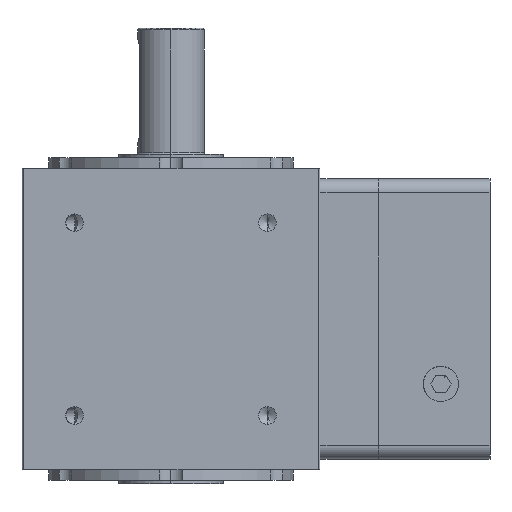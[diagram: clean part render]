
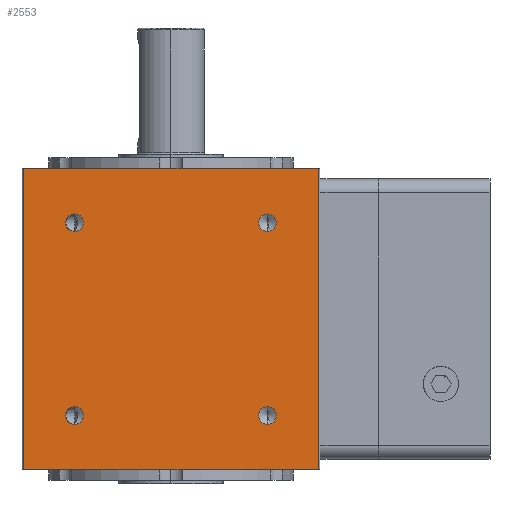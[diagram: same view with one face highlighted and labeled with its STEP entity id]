
A CAD part, left-side view. The second image highlights one B-rep face of the part: STEP entity #2553.
In plain terms, the highlighted planar face has unit normal (-1, 0, 0).
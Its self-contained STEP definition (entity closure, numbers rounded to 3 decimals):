
#61 = ORIENTED_EDGE ( 'NONE', *, *, #11207, .F. ) ;
#129 = CIRCLE ( 'NONE', #11968, 2.5 ) ;
#152 = CARTESIAN_POINT ( 'NONE',  ( -42.5, 27.5, -27.5 ) ) ;
#187 = EDGE_CURVE ( 'NONE', #3725, #6624, #4575, .T. ) ;
#194 = FACE_BOUND ( 'NONE', #8117, .T. ) ;
#220 = AXIS2_PLACEMENT_3D ( 'NONE', #8906, #1755, #7794 ) ;
#443 = CARTESIAN_POINT ( 'NONE',  ( -42.5, 27.5, 27.5 ) ) ;
#494 = EDGE_CURVE ( 'NONE', #6188, #11779, #9210, .T. ) ;
#883 = ORIENTED_EDGE ( 'NONE', *, *, #10194, .F. ) ;
#1024 = AXIS2_PLACEMENT_3D ( 'NONE', #8466, #8553, #1221 ) ;
#1221 = DIRECTION ( 'NONE',  ( 0., 0., 1. ) ) ;
#1329 = AXIS2_PLACEMENT_3D ( 'NONE', #12964, #6889, #1886 ) ;
#1378 = ORIENTED_EDGE ( 'NONE', *, *, #11159, .F. ) ;
#1755 = DIRECTION ( 'NONE',  ( -1., 0., 0. ) ) ;
#1786 = CARTESIAN_POINT ( 'NONE',  ( -42.5, 27.5, -27.5 ) ) ;
#1828 = VERTEX_POINT ( 'NONE', #5660 ) ;
#1886 = DIRECTION ( 'NONE',  ( 0., 0., 1. ) ) ;
#2252 = FACE_BOUND ( 'NONE', #12436, .T. ) ;
#2255 = EDGE_LOOP ( 'NONE', ( #13180, #3172, #5145, #11695 ) ) ;
#2298 = EDGE_CURVE ( 'NONE', #9243, #11201, #12623, .T. ) ;
#2553 = ADVANCED_FACE ( 'NONE', ( #2252, #8978, #6079, #194, #7700 ), #4253, .T. ) ;
#2557 = CARTESIAN_POINT ( 'NONE',  ( -42.5, -42., -43. ) ) ;
#2654 = LINE ( 'NONE', #10332, #13132 ) ;
#2748 = CARTESIAN_POINT ( 'NONE',  ( -42.5, 27.5, -25. ) ) ;
#2783 = CARTESIAN_POINT ( 'NONE',  ( -42.5, -27.5, 30. ) ) ;
#2856 = EDGE_CURVE ( 'NONE', #9452, #9391, #6583, .T. ) ;
#3163 = CARTESIAN_POINT ( 'NONE',  ( -42.5, 27.5, 27.5 ) ) ;
#3172 = ORIENTED_EDGE ( 'NONE', *, *, #11679, .T. ) ;
#3236 = ORIENTED_EDGE ( 'NONE', *, *, #494, .F. ) ;
#3266 = EDGE_LOOP ( 'NONE', ( #10992, #5238 ) ) ;
#3337 = CARTESIAN_POINT ( 'NONE',  ( -42.5, 42., -43. ) ) ;
#3531 = ORIENTED_EDGE ( 'NONE', *, *, #2298, .F. ) ;
#3558 = VERTEX_POINT ( 'NONE', #11164 ) ;
#3571 = ORIENTED_EDGE ( 'NONE', *, *, #187, .F. ) ;
#3626 = VECTOR ( 'NONE', #9513, 1000. ) ;
#3725 = VERTEX_POINT ( 'NONE', #10182 ) ;
#3763 = CARTESIAN_POINT ( 'NONE',  ( -42.5, 27.5, -30. ) ) ;
#4022 = CARTESIAN_POINT ( 'NONE',  ( -42.5, 27.5, 25. ) ) ;
#4024 = AXIS2_PLACEMENT_3D ( 'NONE', #7305, #8291, #9352 ) ;
#4081 = CIRCLE ( 'NONE', #4807, 2.5 ) ;
#4253 = PLANE ( 'NONE',  #4024 ) ;
#4575 = CIRCLE ( 'NONE', #7949, 2.5 ) ;
#4653 = DIRECTION ( 'NONE',  ( -1., 0., 0. ) ) ;
#4755 = EDGE_LOOP ( 'NONE', ( #3531, #1378 ) ) ;
#4807 = AXIS2_PLACEMENT_3D ( 'NONE', #3163, #9187, #10192 ) ;
#4850 = VECTOR ( 'NONE', #5721, 1000. ) ;
#4940 = VERTEX_POINT ( 'NONE', #8716 ) ;
#5145 = ORIENTED_EDGE ( 'NONE', *, *, #9839, .F. ) ;
#5238 = ORIENTED_EDGE ( 'NONE', *, *, #9612, .F. ) ;
#5245 = DIRECTION ( 'NONE',  ( 0., -1., 0. ) ) ;
#5660 = CARTESIAN_POINT ( 'NONE',  ( -42.5, 42., 43. ) ) ;
#5721 = DIRECTION ( 'NONE',  ( 0., 0., 1. ) ) ;
#6074 = AXIS2_PLACEMENT_3D ( 'NONE', #12766, #4653, #11783 ) ;
#6079 = FACE_BOUND ( 'NONE', #4755, .T. ) ;
#6188 = VERTEX_POINT ( 'NONE', #12364 ) ;
#6341 = DIRECTION ( 'NONE',  ( -1., 0., 0. ) ) ;
#6378 = VERTEX_POINT ( 'NONE', #3337 ) ;
#6554 = DIRECTION ( 'NONE',  ( 0., 0., 1. ) ) ;
#6583 = CIRCLE ( 'NONE', #11959, 2.5 ) ;
#6624 = VERTEX_POINT ( 'NONE', #4022 ) ;
#6676 = VECTOR ( 'NONE', #11306, 1000. ) ;
#6679 = CARTESIAN_POINT ( 'NONE',  ( -42.5, -27.5, -25. ) ) ;
#6785 = LINE ( 'NONE', #2557, #4850 ) ;
#6889 = DIRECTION ( 'NONE',  ( -1., 0., 0. ) ) ;
#7305 = CARTESIAN_POINT ( 'NONE',  ( -42.5, 42.5, -43. ) ) ;
#7421 = EDGE_CURVE ( 'NONE', #6378, #4940, #2654, .T. ) ;
#7700 = FACE_OUTER_BOUND ( 'NONE', #2255, .T. ) ;
#7794 = DIRECTION ( 'NONE',  ( 0., 0., 1. ) ) ;
#7868 = DIRECTION ( 'NONE',  ( -1., 0., 0. ) ) ;
#7949 = AXIS2_PLACEMENT_3D ( 'NONE', #443, #9592, #6554 ) ;
#8117 = EDGE_LOOP ( 'NONE', ( #61, #3236 ) ) ;
#8291 = DIRECTION ( 'NONE',  ( -1., 0., 0. ) ) ;
#8466 = CARTESIAN_POINT ( 'NONE',  ( -42.5, -27.5, 27.5 ) ) ;
#8553 = DIRECTION ( 'NONE',  ( -1., 0., 0. ) ) ;
#8716 = CARTESIAN_POINT ( 'NONE',  ( -42.5, -42., -43. ) ) ;
#8906 = CARTESIAN_POINT ( 'NONE',  ( -42.5, -27.5, -27.5 ) ) ;
#8938 = DIRECTION ( 'NONE',  ( 0., 0., 1. ) ) ;
#8978 = FACE_BOUND ( 'NONE', #3266, .T. ) ;
#9039 = CIRCLE ( 'NONE', #220, 2.5 ) ;
#9187 = DIRECTION ( 'NONE',  ( -1., 0., 0. ) ) ;
#9210 = CIRCLE ( 'NONE', #1024, 2.5 ) ;
#9243 = VERTEX_POINT ( 'NONE', #6679 ) ;
#9352 = DIRECTION ( 'NONE',  ( 0., -1., 0. ) ) ;
#9391 = VERTEX_POINT ( 'NONE', #3763 ) ;
#9452 = VERTEX_POINT ( 'NONE', #2748 ) ;
#9470 = CARTESIAN_POINT ( 'NONE',  ( -42.5, 42., -43. ) ) ;
#9513 = DIRECTION ( 'NONE',  ( 0., -1., 0. ) ) ;
#9592 = DIRECTION ( 'NONE',  ( -1., 0., 0. ) ) ;
#9612 = EDGE_CURVE ( 'NONE', #9391, #9452, #129, .T. ) ;
#9631 = EDGE_CURVE ( 'NONE', #1828, #6378, #12383, .T. ) ;
#9839 = EDGE_CURVE ( 'NONE', #1828, #3558, #10783, .T. ) ;
#10182 = CARTESIAN_POINT ( 'NONE',  ( -42.5, 27.5, 30. ) ) ;
#10192 = DIRECTION ( 'NONE',  ( 0., 0., 1. ) ) ;
#10194 = EDGE_CURVE ( 'NONE', #6624, #3725, #4081, .T. ) ;
#10294 = DIRECTION ( 'NONE',  ( 0., 0., 1. ) ) ;
#10332 = CARTESIAN_POINT ( 'NONE',  ( -42.5, 42.5, -43. ) ) ;
#10490 = CARTESIAN_POINT ( 'NONE',  ( -42.5, 42.5, 43. ) ) ;
#10783 = LINE ( 'NONE', #10490, #3626 ) ;
#10992 = ORIENTED_EDGE ( 'NONE', *, *, #2856, .F. ) ;
#11159 = EDGE_CURVE ( 'NONE', #11201, #9243, #9039, .T. ) ;
#11164 = CARTESIAN_POINT ( 'NONE',  ( -42.5, -42., 43. ) ) ;
#11201 = VERTEX_POINT ( 'NONE', #11865 ) ;
#11207 = EDGE_CURVE ( 'NONE', #11779, #6188, #11229, .T. ) ;
#11229 = CIRCLE ( 'NONE', #1329, 2.5 ) ;
#11306 = DIRECTION ( 'NONE',  ( 0., 0., -1. ) ) ;
#11679 = EDGE_CURVE ( 'NONE', #4940, #3558, #6785, .T. ) ;
#11695 = ORIENTED_EDGE ( 'NONE', *, *, #9631, .T. ) ;
#11779 = VERTEX_POINT ( 'NONE', #2783 ) ;
#11783 = DIRECTION ( 'NONE',  ( 0., 0., 1. ) ) ;
#11865 = CARTESIAN_POINT ( 'NONE',  ( -42.5, -27.5, -30. ) ) ;
#11959 = AXIS2_PLACEMENT_3D ( 'NONE', #1786, #7868, #8938 ) ;
#11968 = AXIS2_PLACEMENT_3D ( 'NONE', #152, #6341, #10294 ) ;
#12364 = CARTESIAN_POINT ( 'NONE',  ( -42.5, -27.5, 25. ) ) ;
#12383 = LINE ( 'NONE', #9470, #6676 ) ;
#12436 = EDGE_LOOP ( 'NONE', ( #3571, #883 ) ) ;
#12623 = CIRCLE ( 'NONE', #6074, 2.5 ) ;
#12766 = CARTESIAN_POINT ( 'NONE',  ( -42.5, -27.5, -27.5 ) ) ;
#12964 = CARTESIAN_POINT ( 'NONE',  ( -42.5, -27.5, 27.5 ) ) ;
#13132 = VECTOR ( 'NONE', #5245, 1000. ) ;
#13180 = ORIENTED_EDGE ( 'NONE', *, *, #7421, .T. ) ;
